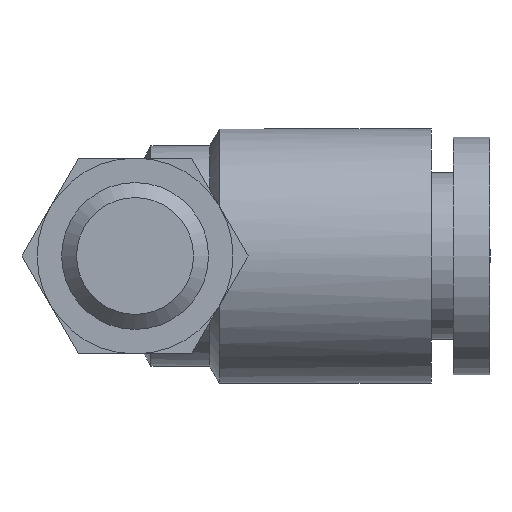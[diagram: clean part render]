
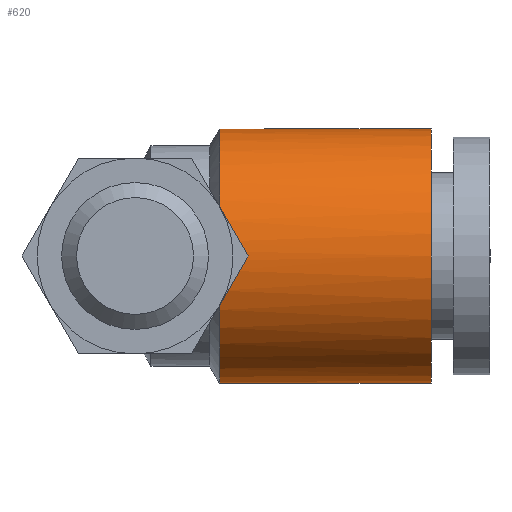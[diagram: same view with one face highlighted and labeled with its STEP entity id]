
A CAD part, front view. The second image highlights one B-rep face of the part: STEP entity #620.
In plain terms, the highlighted cylindrical face has radius 5.2 mm (diameter 10.4 mm), a full revolution.
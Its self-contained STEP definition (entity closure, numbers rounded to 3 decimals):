
#51=B_SPLINE_CURVE_WITH_KNOTS('',3,(#943,#944,#945,#946),.UNSPECIFIED.,
 .F.,.F.,(4,4),(0.016,0.018),.UNSPECIFIED.);
#237=ORIENTED_EDGE('',*,*,#354,.F.);
#238=ORIENTED_EDGE('',*,*,#319,.T.);
#239=ORIENTED_EDGE('',*,*,#301,.T.);
#301=EDGE_CURVE('',#383,#382,#51,.T.);
#319=EDGE_CURVE('',#382,#383,#443,.T.);
#354=EDGE_CURVE('',#419,#419,#456,.T.);
#382=VERTEX_POINT('',#942);
#383=VERTEX_POINT('',#947);
#419=VERTEX_POINT('',#1087);
#443=CIRCLE('',#667,5.2);
#456=CIRCLE('',#701,5.2);
#501=EDGE_LOOP('',(#237));
#502=EDGE_LOOP('',(#238,#239));
#559=FACE_BOUND('',#501,.T.);
#560=FACE_BOUND('',#502,.T.);
#589=CYLINDRICAL_SURFACE('',#700,5.2);
#620=ADVANCED_FACE('',(#559,#560),#589,.T.);
#667=AXIS2_PLACEMENT_3D('',#1001,#768,#769);
#700=AXIS2_PLACEMENT_3D('',#1085,#854,#855);
#701=AXIS2_PLACEMENT_3D('',#1086,#856,#857);
#768=DIRECTION('',(1.,0.,0.));
#769=DIRECTION('',(0.,0.,-1.));
#854=DIRECTION('',(1.,0.,0.));
#855=DIRECTION('',(0.,0.,-1.));
#856=DIRECTION('',(1.,0.,0.));
#857=DIRECTION('',(0.,0.,-1.));
#942=CARTESIAN_POINT('',(3.45,8.334,-0.589));
#943=CARTESIAN_POINT('',(3.45,8.334,0.589));
#944=CARTESIAN_POINT('',(3.517,8.289,0.199));
#945=CARTESIAN_POINT('',(3.516,8.289,-0.201));
#946=CARTESIAN_POINT('',(3.45,8.334,-0.589));
#947=CARTESIAN_POINT('',(3.45,8.334,0.589));
#1001=CARTESIAN_POINT('',(3.45,13.5,0.));
#1085=CARTESIAN_POINT('',(14.5,13.5,0.));
#1086=CARTESIAN_POINT('',(12.1,13.5,0.));
#1087=CARTESIAN_POINT('',(12.1,13.5,-5.2));
